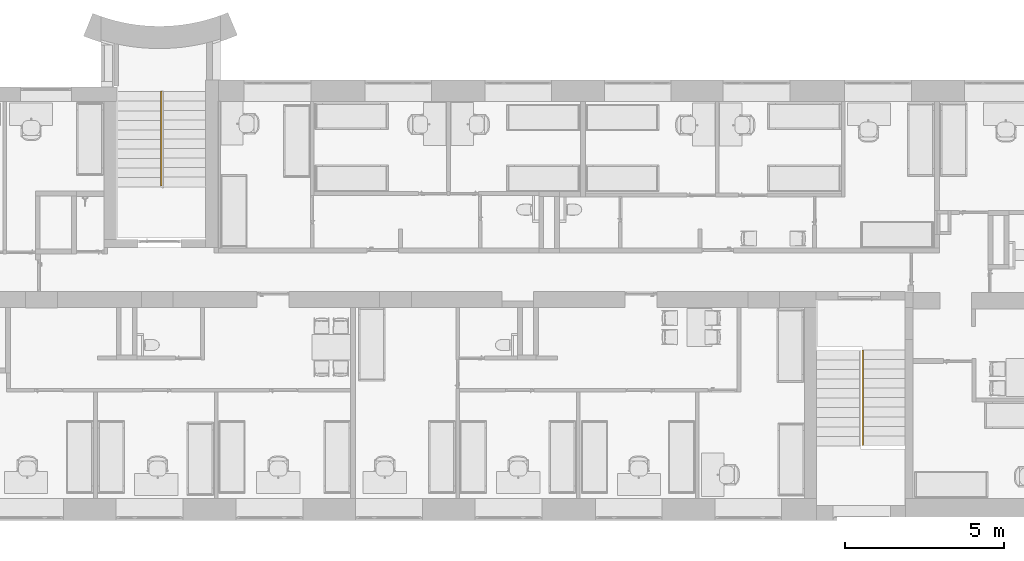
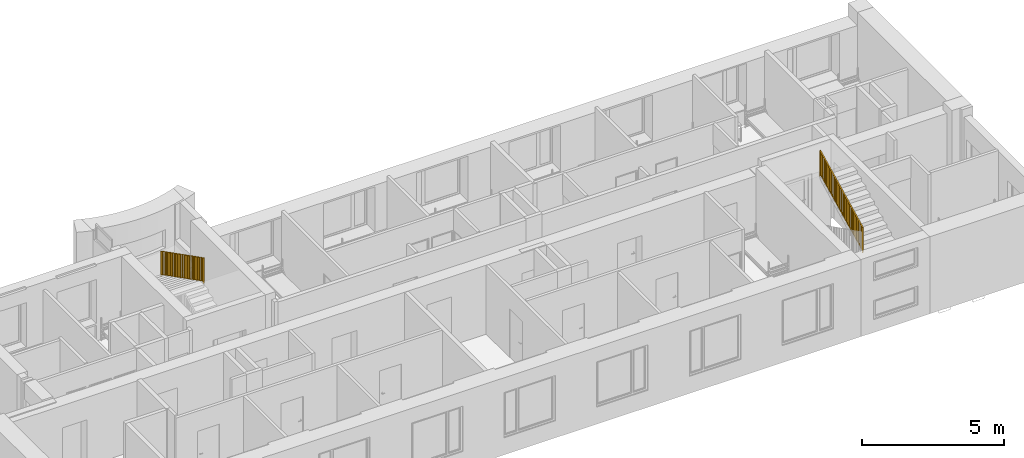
# One storey, part 18 of 48: 2 railings, 2 elements without a shape of their own.
"""IFC2X3 building model written with IfcOpenShell, lengths in millimetres."""

from ifc_helpers import new_model, entity, si_unit, converted_unit, derived_unit, direction, frame, origin, place, context, subcontext, project, spatial, polyline, outline, extrude, material, element, aggregate, save


model = new_model("IFC2X3")

# Units and contexts
model_context = context("Model", 3, precision=0.01, world=origin(), true_north=direction((6.12303176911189e-17, 1.0)))
body_context = subcontext(model_context, "Body", "Model", "MODEL_VIEW")
ifc_project = project(units=[si_unit("LENGTHUNIT", "METRE", prefix="MILLI"), si_unit("AREAUNIT", "SQUARE_METRE"), si_unit("VOLUMEUNIT", "CUBIC_METRE"), converted_unit("PLANEANGLEUNIT", "DEGREE", entity("IfcRatioMeasure", 0.0174532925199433), si_unit("PLANEANGLEUNIT", "RADIAN"), dimensions=[0, 0, 0, 0, 0, 0, 0]), si_unit("MASSUNIT", "GRAM", prefix="KILO"), derived_unit("MASSDENSITYUNIT", [(si_unit("MASSUNIT", "GRAM", prefix="KILO"), 1), (si_unit("LENGTHUNIT", "METRE"), -3)]), si_unit("TIMEUNIT", "SECOND"), si_unit("FREQUENCYUNIT", "HERTZ"), si_unit("THERMODYNAMICTEMPERATUREUNIT", "DEGREE_CELSIUS"), derived_unit("THERMALTRANSMITTANCEUNIT", [(si_unit("MASSUNIT", "GRAM", prefix="KILO"), 1), (si_unit("THERMODYNAMICTEMPERATUREUNIT", "KELVIN"), -1), (si_unit("TIMEUNIT", "SECOND"), -3)]), derived_unit("VOLUMETRICFLOWRATEUNIT", [(si_unit("LENGTHUNIT", "METRE"), 3), (si_unit("TIMEUNIT", "SECOND"), -1)]), si_unit("ELECTRICCURRENTUNIT", "AMPERE"), si_unit("ELECTRICVOLTAGEUNIT", "VOLT"), si_unit("POWERUNIT", "WATT"), si_unit("FORCEUNIT", "NEWTON", prefix="KILO"), si_unit("ILLUMINANCEUNIT", "LUX"), si_unit("LUMINOUSFLUXUNIT", "LUMEN"), si_unit("LUMINOUSINTENSITYUNIT", "CANDELA"), derived_unit("USERDEFINED", [(si_unit("MASSUNIT", "GRAM", prefix="KILO"), -1), (si_unit("LENGTHUNIT", "METRE"), -2), (si_unit("TIMEUNIT", "SECOND"), 3), (si_unit("LUMINOUSFLUXUNIT", "LUMEN"), 1)]), derived_unit("LINEARVELOCITYUNIT", [(si_unit("LENGTHUNIT", "METRE"), 1), (si_unit("TIMEUNIT", "SECOND"), -1)]), si_unit("PRESSUREUNIT", "PASCAL"), derived_unit("USERDEFINED", [(si_unit("LENGTHUNIT", "METRE"), -2), (si_unit("MASSUNIT", "GRAM", prefix="KILO"), 1), (si_unit("TIMEUNIT", "SECOND"), -2)]), derived_unit("LINEARFORCEUNIT", [(si_unit("MASSUNIT", "GRAM", prefix="KILO"), 1), (si_unit("LENGTHUNIT", "METRE"), 1), (si_unit("TIMEUNIT", "SECOND"), -2), (si_unit("LENGTHUNIT", "METRE"), -1)]), derived_unit("PLANARFORCEUNIT", [(si_unit("MASSUNIT", "GRAM", prefix="KILO"), 1), (si_unit("LENGTHUNIT", "METRE"), 1), (si_unit("TIMEUNIT", "SECOND"), -2), (si_unit("LENGTHUNIT", "METRE"), -2)])], contexts=[model_context])

# Site, building, storey
site_placement = place(None, origin())
site = spatial("IfcSite", under=ifc_project, at=site_placement, Name="Default", CompositionType="ELEMENT")
building_placement = place(site_placement, origin())
building = spatial("IfcBuilding", under=site, at=building_placement, Name="SMA ARH", CompositionType="ELEMENT")
storey_placement = place(building_placement, frame((0.0, 0.0, 6600.0)))
storey = spatial("IfcBuildingStorey", under=building, at=storey_placement, Name="3 Korrus", CompositionType="ELEMENT", Elevation=6599.99999999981)

# Stair, railing
stair_1_placement = place(storey_placement, origin())
stair_1 = element("IfcStair", 1, at=stair_1_placement, inside=storey, Name="Cast-In-Place Stair:Stair", ObjectType="Cast-In-Place Stair:Cast-In-Place Stair", ShapeType="STRAIGHT_RUN_STAIR")
ifc_material = material(Name="Metal - Stainless Steel,Polished")
railing_1_placement = place(stair_1_placement, origin())
railing_1 = element("IfcRailing", 2, at=railing_1_placement, material=ifc_material, Name="Railing:1000mm_sisearh railing offsetiga", ObjectType="Railing:1000mm_sisearh railing offsetiga", PredefinedType="NOTDEFINED", context=body_context, shape_type="SweptSolid", body=[
    extrude(outline(polyline([(-221.894317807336, -446.333805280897), (-216.324327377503, -446.333805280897), (221.894317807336, 446.333805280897), (216.324327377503, 446.333805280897), (-221.894317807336, -446.333805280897)])), frame((32255.0, 1770.0, 2297.21500478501), z_axis=(1.0, 0.0, 0.0), x_axis=(0.0, 0.897667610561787, 0.44067319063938)), (0.0, 0.0, 1.0), 49.9999999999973),
    extrude(outline(polyline([(-221.894317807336, -446.333805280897), (-216.324327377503, -446.333805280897), (221.894317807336, 446.333805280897), (216.324327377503, 446.333805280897), (-221.894317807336, -446.333805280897)])), frame((32255.0, 1870.0, 2347.215004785), z_axis=(1.0, 0.0, 0.0), x_axis=(0.0, 0.897667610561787, 0.44067319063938)), (0.0, 0.0, 1.0), 49.9999999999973),
    extrude(outline(polyline([(-221.894317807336, -446.333805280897), (-216.324327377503, -446.333805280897), (221.894317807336, 446.333805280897), (216.324327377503, 446.333805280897), (-221.894317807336, -446.333805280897)])), frame((32255.0, 1970.0, 2397.21500478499), z_axis=(1.0, 0.0, 0.0), x_axis=(0.0, 0.897667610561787, 0.44067319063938)), (0.0, 0.0, 1.0), 49.9999999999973),
    extrude(outline(polyline([(-221.894317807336, -446.333805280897), (-216.324327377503, -446.333805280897), (221.894317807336, 446.333805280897), (216.324327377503, 446.333805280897), (-221.894317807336, -446.333805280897)])), frame((32255.0, 2070.0, 2447.21500478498), z_axis=(1.0, 0.0, 0.0), x_axis=(0.0, 0.897667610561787, 0.44067319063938)), (0.0, 0.0, 1.0), 49.9999999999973),
    extrude(outline(polyline([(-221.894317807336, -446.333805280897), (-216.324327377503, -446.333805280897), (221.894317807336, 446.333805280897), (216.324327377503, 446.333805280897), (-221.894317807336, -446.333805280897)])), frame((32255.0, 2170.0, 2497.21500478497), z_axis=(1.0, 0.0, 0.0), x_axis=(0.0, 0.897667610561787, 0.44067319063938)), (0.0, 0.0, 1.0), 49.9999999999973),
    extrude(outline(polyline([(-221.894317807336, -446.333805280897), (-216.324327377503, -446.333805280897), (221.894317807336, 446.333805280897), (216.324327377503, 446.333805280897), (-221.894317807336, -446.333805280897)])), frame((32255.0, 2270.0, 2547.21500478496), z_axis=(1.0, 0.0, 0.0), x_axis=(0.0, 0.897667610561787, 0.44067319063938)), (0.0, 0.0, 1.0), 49.9999999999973),
    extrude(outline(polyline([(-221.894317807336, -446.333805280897), (-216.324327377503, -446.333805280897), (221.894317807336, 446.333805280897), (216.324327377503, 446.333805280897), (-221.894317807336, -446.333805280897)])), frame((32255.0, 2370.0, 2597.21500478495), z_axis=(1.0, 0.0, 0.0), x_axis=(0.0, 0.897667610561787, 0.44067319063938)), (0.0, 0.0, 1.0), 49.9999999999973),
    extrude(outline(polyline([(-221.894317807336, -446.333805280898), (-216.324327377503, -446.333805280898), (221.894317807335, 446.333805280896), (216.324327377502, 446.333805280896), (-221.894317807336, -446.333805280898)])), frame((32255.0, 2470.0, 2647.21500478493), z_axis=(1.0, 0.0, 0.0), x_axis=(0.0, 0.897667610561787, 0.44067319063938)), (0.0, 0.0, 1.0), 49.9999999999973),
    extrude(outline(polyline([(-221.894317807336, -446.333805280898), (-216.324327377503, -446.333805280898), (221.894317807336, 446.333805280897), (216.324327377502, 446.333805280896), (-221.894317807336, -446.333805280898)])), frame((32255.0, 2570.0, 2697.21500478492), z_axis=(1.0, 0.0, 0.0), x_axis=(0.0, 0.897667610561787, 0.44067319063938)), (0.0, 0.0, 1.0), 49.9999999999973),
    extrude(outline(polyline([(-221.894317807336, -446.333805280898), (-216.324327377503, -446.333805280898), (221.894317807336, 446.333805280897), (216.324327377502, 446.333805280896), (-221.894317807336, -446.333805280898)])), frame((32255.0, 2670.0, 2747.21500478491), z_axis=(1.0, 0.0, 0.0), x_axis=(0.0, 0.897667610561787, 0.44067319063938)), (0.0, 0.0, 1.0), 49.9999999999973),
    extrude(outline(polyline([(-221.894317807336, -446.333805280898), (-216.324327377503, -446.333805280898), (221.894317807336, 446.333805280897), (216.324327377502, 446.333805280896), (-221.894317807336, -446.333805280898)])), frame((32255.0, 2770.0, 2797.2150047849), z_axis=(1.0, 0.0, 0.0), x_axis=(0.0, 0.897667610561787, 0.44067319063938)), (0.0, 0.0, 1.0), 49.9999999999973),
    extrude(outline(polyline([(-221.894317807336, -446.333805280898), (-216.324327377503, -446.333805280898), (221.894317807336, 446.333805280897), (216.324327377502, 446.333805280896), (-221.894317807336, -446.333805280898)])), frame((32255.0, 2870.0, 2847.21500478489), z_axis=(1.0, 0.0, 0.0), x_axis=(0.0, 0.897667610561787, 0.44067319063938)), (0.0, 0.0, 1.0), 49.9999999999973),
    extrude(outline(polyline([(-221.894317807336, -446.333805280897), (-216.324327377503, -446.333805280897), (221.894317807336, 446.333805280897), (216.324327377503, 446.333805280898), (-221.894317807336, -446.333805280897)])), frame((32255.0, 2970.0, 2897.21500478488), z_axis=(1.0, 0.0, 0.0), x_axis=(0.0, 0.897667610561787, 0.44067319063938)), (0.0, 0.0, 1.0), 49.9999999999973),
    extrude(outline(polyline([(-221.894317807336, -446.333805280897), (-216.324327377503, -446.333805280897), (221.894317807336, 446.333805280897), (216.324327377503, 446.333805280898), (-221.894317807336, -446.333805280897)])), frame((32255.0, 3070.0, 2947.21500478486), z_axis=(1.0, 0.0, 0.0), x_axis=(0.0, 0.897667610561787, 0.44067319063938)), (0.0, 0.0, 1.0), 49.9999999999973),
    extrude(outline(polyline([(-221.894317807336, -446.333805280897), (-216.324327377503, -446.333805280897), (221.894317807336, 446.333805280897), (216.324327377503, 446.333805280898), (-221.894317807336, -446.333805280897)])), frame((32255.0, 3170.0, 2997.21500478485), z_axis=(1.0, 0.0, 0.0), x_axis=(0.0, 0.897667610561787, 0.44067319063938)), (0.0, 0.0, 1.0), 49.9999999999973),
    extrude(outline(polyline([(-221.894317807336, -446.333805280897), (-216.324327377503, -446.333805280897), (221.894317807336, 446.333805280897), (216.324327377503, 446.333805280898), (-221.894317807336, -446.333805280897)])), frame((32255.0, 3270.0, 3047.21500478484), z_axis=(1.0, 0.0, 0.0), x_axis=(0.0, 0.897667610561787, 0.44067319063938)), (0.0, 0.0, 1.0), 49.9999999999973),
    extrude(outline(polyline([(-221.894317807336, -446.333805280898), (-216.324327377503, -446.333805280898), (221.894317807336, 446.333805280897), (216.324327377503, 446.333805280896), (-221.894317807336, -446.333805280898)])), frame((32255.0, 3370.0, 3097.21500478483), z_axis=(1.0, 0.0, 0.0), x_axis=(0.0, 0.897667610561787, 0.44067319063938)), (0.0, 0.0, 1.0), 49.9999999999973),
    extrude(outline(polyline([(-221.894317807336, -446.333805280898), (-216.324327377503, -446.333805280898), (221.894317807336, 446.333805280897), (216.324327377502, 446.333805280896), (-221.894317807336, -446.333805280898)])), frame((32255.0, 3470.0, 3147.21500478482), z_axis=(1.0, 0.0, 0.0), x_axis=(0.0, 0.897667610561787, 0.44067319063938)), (0.0, 0.0, 1.0), 49.9999999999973),
    extrude(outline(polyline([(-221.894317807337, -446.333805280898), (-216.324327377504, -446.333805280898), (221.894317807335, 446.333805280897), (216.324327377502, 446.333805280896), (-221.894317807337, -446.333805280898)])), frame((32255.0, 3570.0, 3197.21500478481), z_axis=(1.0, 0.0, 0.0), x_axis=(0.0, 0.897667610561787, 0.44067319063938)), (0.0, 0.0, 1.0), 49.9999999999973),
    extrude(outline(polyline([(-221.894317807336, -446.333805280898), (-216.324327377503, -446.333805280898), (221.894317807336, 446.333805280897), (216.324327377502, 446.333805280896), (-221.894317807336, -446.333805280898)])), frame((32255.0, 3670.0, 3247.2150047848), z_axis=(1.0, 0.0, 0.0), x_axis=(0.0, 0.897667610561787, 0.44067319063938)), (0.0, 0.0, 1.0), 49.9999999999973),
    extrude(outline(polyline([(-221.894317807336, -446.333805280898), (-216.324327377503, -446.333805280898), (221.894317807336, 446.333805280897), (216.324327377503, 446.333805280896), (-221.894317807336, -446.333805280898)])), frame((32255.0, 3770.0, 3297.21500478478), z_axis=(1.0, 0.0, 0.0), x_axis=(0.0, 0.897667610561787, 0.44067319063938)), (0.0, 0.0, 1.0), 49.9999999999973),
    extrude(outline(polyline([(-221.894317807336, -446.333805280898), (-216.324327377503, -446.333805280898), (221.894317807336, 446.333805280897), (216.324327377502, 446.333805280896), (-221.894317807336, -446.333805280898)])), frame((32255.0, 3870.0, 3347.21500478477), z_axis=(1.0, 0.0, 0.0), x_axis=(0.0, 0.897667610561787, 0.44067319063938)), (0.0, 0.0, 1.0), 49.9999999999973),
    extrude(outline(polyline([(-221.894317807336, -446.333805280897), (-216.324327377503, -446.333805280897), (221.894317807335, 446.333805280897), (216.324327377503, 446.333805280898), (-221.894317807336, -446.333805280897)])), frame((32255.0, 3970.0, 3397.21500478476), z_axis=(1.0, 0.0, 0.0), x_axis=(0.0, 0.897667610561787, 0.44067319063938)), (0.0, 0.0, 1.0), 49.9999999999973),
    extrude(outline(polyline([(-221.894317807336, -446.333805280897), (-216.324327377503, -446.333805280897), (221.894317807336, 446.333805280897), (216.324327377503, 446.333805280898), (-221.894317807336, -446.333805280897)])), frame((32255.0, 4070.0, 3447.21500478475), z_axis=(1.0, 0.0, 0.0), x_axis=(0.0, 0.897667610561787, 0.44067319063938)), (0.0, 0.0, 1.0), 49.9999999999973),
    extrude(outline(polyline([(-221.894317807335, -446.333805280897), (-216.324327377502, -446.333805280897), (221.894317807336, 446.333805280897), (216.324327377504, 446.333805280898), (-221.894317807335, -446.333805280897)])), frame((32255.0, 4170.0, 3497.21500478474), z_axis=(1.0, 0.0, 0.0), x_axis=(0.0, 0.897667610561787, 0.44067319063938)), (0.0, 0.0, 1.0), 49.9999999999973),
    extrude(outline(polyline([(-221.894317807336, -446.333805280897), (-216.324327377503, -446.333805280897), (221.894317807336, 446.333805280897), (216.324327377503, 446.333805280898), (-221.894317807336, -446.333805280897)])), frame((32255.0, 4270.0, 3547.21500478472), z_axis=(1.0, 0.0, 0.0), x_axis=(0.0, 0.897667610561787, 0.44067319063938)), (0.0, 0.0, 1.0), 49.9999999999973),
    extrude(outline(polyline([(-221.894317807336, -446.333805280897), (-216.324327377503, -446.333805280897), (221.894317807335, 446.333805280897), (216.324327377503, 446.333805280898), (-221.894317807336, -446.333805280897)])), frame((32255.0, 4370.0, 3597.21500478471), z_axis=(1.0, 0.0, 0.0), x_axis=(0.0, 0.897667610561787, 0.44067319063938)), (0.0, 0.0, 1.0), 49.9999999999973),
    extrude(outline(polyline([(-221.894317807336, -446.333805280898), (-216.324327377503, -446.333805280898), (221.894317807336, 446.333805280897), (216.324327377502, 446.333805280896), (-221.894317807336, -446.333805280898)])), frame((32255.0, 4470.0, 3647.2150047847), z_axis=(1.0, 0.0, 0.0), x_axis=(0.0, 0.897667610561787, 0.44067319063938)), (0.0, 0.0, 1.0), 49.9999999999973),
    extrude(outline(polyline([(-221.894317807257, -446.333805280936), (-216.324327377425, -446.333805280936), (221.894317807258, 446.333805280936), (216.324327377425, 446.333805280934), (-221.894317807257, -446.333805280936)])), frame((32255.0, 4570.0, 3697.21500478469), z_axis=(1.0, 0.0, 0.0), x_axis=(0.0, 0.897667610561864, 0.440673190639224)), (0.0, 0.0, 1.0), 49.9999999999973),
    extrude(outline(polyline([(-243.927977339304, -491.217185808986), (-238.357986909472, -491.217185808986), (243.927977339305, 491.217185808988), (238.357986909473, 491.217185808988), (-243.927977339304, -491.217185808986)])), frame((32255.0, 1680.0, 2202.21500478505), z_axis=(1.0, 0.0, 0.0), x_axis=(0.0, 0.897667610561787, 0.44067319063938)), (0.0, 0.0, 1.0), 49.9999999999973),
    extrude(outline(polyline([(-243.927977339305, -491.217185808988), (-238.357986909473, -491.217185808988), (243.927977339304, 491.217185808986), (238.357986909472, 491.217185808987), (-243.927977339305, -491.217185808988)])), frame((32255.0, 4660.0, 3692.21500478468), z_axis=(1.0, 0.0, 0.0), x_axis=(0.0, 0.897667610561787, 0.44067319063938)), (0.0, 0.0, 1.0), 49.9999999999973),
    extrude(outline(polyline([(-1678.30098312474, -2.50000000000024), (1675.80098312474, -2.50000000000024), (1678.30098312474, 2.50000000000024), (-1675.80098312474, 2.50000000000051), (-1678.30098312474, -2.50000000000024)])), frame((32254.5598309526, 3170.0, 2497.2049150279), z_axis=(1.0, 0.0, 0.0), x_axis=(0.0, -0.894427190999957, -0.447213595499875)), (0.0, 0.0, 1.0), 49.9999999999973),
    extrude(outline(polyline([(-1678.30098312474, -2.49999999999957), (1675.80098312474, -2.49999999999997), (1678.30098312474, 2.50000000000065), (-1675.80098312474, 2.50000000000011), (-1678.30098312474, -2.49999999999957)])), frame((32254.5598309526, 3170.0, 3497.2049150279), z_axis=(1.0, 0.0, 0.0), x_axis=(0.0, 0.894427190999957, 0.447213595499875)), (0.0, 0.0, 1.0), 50.0000000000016),
])
aggregate(stair_1, [railing_1])

stair_2_placement = place(storey_placement, origin())
stair_2 = element("IfcStair", 3, at=stair_2_placement, inside=storey, Name="Cast-In-Place Stair:Stair", ObjectType="Cast-In-Place Stair:Cast-In-Place Stair", ShapeType="STRAIGHT_RUN_STAIR")
railing_2_placement = place(stair_2_placement, origin())
railing_2 = element("IfcRailing", 4, at=railing_2_placement, material=ifc_material, Name="Railing:1000mm_sisearh railing offsetiga", ObjectType="Railing:1000mm_sisearh railing offsetiga", PredefinedType="NOTDEFINED", context=body_context, shape_type="SweptSolid", body=[
    extrude(outline(polyline([(-498.467404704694, -2.49999999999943), (495.921950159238, -2.49999999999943), (498.467404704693, 2.5000000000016), (-495.921950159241, 2.5000000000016), (-498.467404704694, -2.49999999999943)])), frame((10180.0, 12728.3043712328, 2247.84991159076), z_axis=(1.0, 0.0, 0.0), x_axis=(0.0, 0.0, 1.0)), (0.0, 0.0, 1.0), 50.0000000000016),
    extrude(outline(polyline([(-498.467404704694, -2.5000000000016), (495.921950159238, -2.5000000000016), (498.467404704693, 2.49999999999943), (-495.921950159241, 2.49999999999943), (-498.467404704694, -2.5000000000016)])), frame((10180.0, 12628.3043712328, 2298.75900249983), z_axis=(1.0, 0.0, 0.0), x_axis=(0.0, 0.0, 1.0)), (0.0, 0.0, 1.0), 50.0000000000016),
    extrude(outline(polyline([(-498.467404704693, -2.49999999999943), (495.92195015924, -2.49999999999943), (498.467404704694, 2.5000000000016), (-495.92195015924, 2.5000000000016), (-498.467404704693, -2.49999999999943)])), frame((10180.0, 12528.3043712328, 2349.66809340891), z_axis=(1.0, 0.0, 0.0), x_axis=(0.0, 0.0, 1.0)), (0.0, 0.0, 1.0), 50.0000000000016),
    extrude(outline(polyline([(-498.467404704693, -2.5000000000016), (495.92195015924, -2.5000000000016), (498.467404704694, 2.49999999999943), (-495.92195015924, 2.49999999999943), (-498.467404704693, -2.5000000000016)])), frame((10180.0, 12428.3043712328, 2400.57718431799), z_axis=(1.0, 0.0, 0.0), x_axis=(0.0, 0.0, 1.0)), (0.0, 0.0, 1.0), 50.0000000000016),
    extrude(outline(polyline([(-498.467404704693, -2.5000000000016), (495.92195015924, -2.5000000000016), (498.467404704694, 2.49999999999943), (-495.92195015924, 2.49999999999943), (-498.467404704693, -2.5000000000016)])), frame((10180.0, 12328.3043712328, 2451.48627522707), z_axis=(1.0, 0.0, 0.0), x_axis=(0.0, 0.0, 1.0)), (0.0, 0.0, 1.0), 50.0000000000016),
    extrude(outline(polyline([(-498.467404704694, -2.49999999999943), (495.921950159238, -2.49999999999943), (498.467404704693, 2.5000000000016), (-495.921950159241, 2.5000000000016), (-498.467404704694, -2.49999999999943)])), frame((10180.0, 12228.3043712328, 2502.39536613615), z_axis=(1.0, 0.0, 0.0), x_axis=(0.0, 0.0, 1.0)), (0.0, 0.0, 1.0), 50.0000000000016),
    extrude(outline(polyline([(-498.467404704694, -2.5000000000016), (495.921950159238, -2.5000000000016), (498.467404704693, 2.49999999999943), (-495.921950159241, 2.49999999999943), (-498.467404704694, -2.5000000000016)])), frame((10180.0, 12128.3043712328, 2553.30445704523), z_axis=(1.0, 0.0, 0.0), x_axis=(0.0, 0.0, 1.0)), (0.0, 0.0, 1.0), 50.0000000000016),
    extrude(outline(polyline([(-498.467404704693, -2.5000000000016), (495.92195015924, -2.5000000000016), (498.467404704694, 2.49999999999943), (-495.92195015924, 2.49999999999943), (-498.467404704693, -2.5000000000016)])), frame((10180.0, 12028.3043712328, 2604.21354795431), z_axis=(1.0, 0.0, 0.0), x_axis=(0.0, 0.0, 1.0)), (0.0, 0.0, 1.0), 50.0000000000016),
    extrude(outline(polyline([(-498.467404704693, -2.5000000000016), (495.92195015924, -2.5000000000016), (498.467404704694, 2.49999999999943), (-495.92195015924, 2.49999999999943), (-498.467404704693, -2.5000000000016)])), frame((10180.0, 11928.3043712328, 2655.12263886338), z_axis=(1.0, 0.0, 0.0), x_axis=(0.0, 0.0, 1.0)), (0.0, 0.0, 1.0), 50.0000000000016),
    extrude(outline(polyline([(-498.467404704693, -2.5000000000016), (495.92195015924, -2.5000000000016), (498.467404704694, 2.49999999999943), (-495.92195015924, 2.49999999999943), (-498.467404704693, -2.5000000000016)])), frame((10180.0, 11828.3043712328, 2706.03172977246), z_axis=(1.0, 0.0, 0.0), x_axis=(0.0, 0.0, 1.0)), (0.0, 0.0, 1.0), 50.0000000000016),
    extrude(outline(polyline([(-498.467404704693, -2.49999999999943), (495.92195015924, -2.49999999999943), (498.467404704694, 2.5000000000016), (-495.92195015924, 2.5000000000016), (-498.467404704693, -2.49999999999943)])), frame((10180.0, 11728.3043712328, 2756.94082068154), z_axis=(1.0, 0.0, 0.0), x_axis=(0.0, 0.0, 1.0)), (0.0, 0.0, 1.0), 50.0000000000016),
    extrude(outline(polyline([(-498.467404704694, -2.5000000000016), (495.92195015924, -2.5000000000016), (498.467404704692, 2.49999999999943), (-495.921950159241, 2.49999999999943), (-498.467404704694, -2.5000000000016)])), frame((10180.0, 11628.3043712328, 2807.84991159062), z_axis=(1.0, 0.0, 0.0), x_axis=(0.0, 0.0, 1.0)), (0.0, 0.0, 1.0), 50.0000000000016),
    extrude(outline(polyline([(-498.467404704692, -2.5000000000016), (495.92195015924, -2.5000000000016), (498.467404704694, 2.49999999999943), (-495.921950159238, 2.49999999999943), (-498.467404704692, -2.5000000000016)])), frame((10180.0, 11528.3043712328, 2858.7590024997), z_axis=(1.0, 0.0, 0.0), x_axis=(0.0, 0.0, 1.0)), (0.0, 0.0, 1.0), 50.0000000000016),
    extrude(outline(polyline([(-498.467404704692, -2.49999999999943), (495.92195015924, -2.49999999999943), (498.467404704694, 2.5000000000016), (-495.921950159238, 2.5000000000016), (-498.467404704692, -2.49999999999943)])), frame((10180.0, 11428.3043712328, 2909.66809340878), z_axis=(1.0, 0.0, 0.0), x_axis=(0.0, 0.0, 1.0)), (0.0, 0.0, 1.0), 50.0000000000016),
    extrude(outline(polyline([(-498.467404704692, -2.5000000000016), (495.92195015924, -2.5000000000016), (498.467404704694, 2.49999999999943), (-495.921950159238, 2.49999999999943), (-498.467404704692, -2.5000000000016)])), frame((10180.0, 11328.3043712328, 2960.57718431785), z_axis=(1.0, 0.0, 0.0), x_axis=(0.0, 0.0, 1.0)), (0.0, 0.0, 1.0), 50.0000000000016),
    extrude(outline(polyline([(-498.467404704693, -2.5000000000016), (495.92195015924, -2.5000000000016), (498.467404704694, 2.49999999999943), (-495.92195015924, 2.49999999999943), (-498.467404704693, -2.5000000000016)])), frame((10180.0, 11228.3043712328, 3011.48627522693), z_axis=(1.0, 0.0, 0.0), x_axis=(0.0, 0.0, 1.0)), (0.0, 0.0, 1.0), 50.0000000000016),
    extrude(outline(polyline([(-498.467404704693, -2.49999999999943), (495.921950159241, -2.49999999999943), (498.467404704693, 2.5000000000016), (-495.92195015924, 2.5000000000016), (-498.467404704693, -2.49999999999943)])), frame((10180.0, 11128.3043712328, 3062.39536613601), z_axis=(1.0, 0.0, 0.0), x_axis=(0.0, 0.0, 1.0)), (0.0, 0.0, 1.0), 50.0000000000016),
    extrude(outline(polyline([(-498.467404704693, -2.5000000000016), (495.92195015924, -2.5000000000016), (498.467404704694, 2.49999999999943), (-495.92195015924, 2.49999999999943), (-498.467404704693, -2.5000000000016)])), frame((10180.0, 11028.3043712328, 3113.30445704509), z_axis=(1.0, 0.0, 0.0), x_axis=(0.0, 0.0, 1.0)), (0.0, 0.0, 1.0), 50.0000000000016),
    extrude(outline(polyline([(-498.467404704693, -2.49999999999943), (495.92195015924, -2.49999999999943), (498.467404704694, 2.5000000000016), (-495.92195015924, 2.5000000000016), (-498.467404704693, -2.49999999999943)])), frame((10180.0, 10928.3043712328, 3164.21354795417), z_axis=(1.0, 0.0, 0.0), x_axis=(0.0, 0.0, 1.0)), (0.0, 0.0, 1.0), 50.0000000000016),
    extrude(outline(polyline([(-498.467404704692, -2.5000000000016), (495.92195015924, -2.5000000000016), (498.467404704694, 2.49999999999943), (-495.921950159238, 2.49999999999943), (-498.467404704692, -2.5000000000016)])), frame((10180.0, 10828.3043712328, 3215.12263886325), z_axis=(1.0, 0.0, 0.0), x_axis=(0.0, 0.0, 1.0)), (0.0, 0.0, 1.0), 50.0000000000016),
    extrude(outline(polyline([(-498.467404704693, -2.5000000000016), (495.92195015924, -2.5000000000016), (498.467404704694, 2.49999999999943), (-495.92195015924, 2.49999999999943), (-498.467404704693, -2.5000000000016)])), frame((10180.0, 10728.3043712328, 3266.03172977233), z_axis=(1.0, 0.0, 0.0), x_axis=(0.0, 0.0, 1.0)), (0.0, 0.0, 1.0), 50.0000000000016),
    extrude(outline(polyline([(-498.467404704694, -2.49999999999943), (495.92195015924, -2.49999999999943), (498.467404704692, 2.5000000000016), (-495.921950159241, 2.5000000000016), (-498.467404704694, -2.49999999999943)])), frame((10180.0, 10628.3043712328, 3316.94082068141), z_axis=(1.0, 0.0, 0.0), x_axis=(0.0, 0.0, 1.0)), (0.0, 0.0, 1.0), 50.0000000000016),
    extrude(outline(polyline([(-498.467404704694, -2.5000000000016), (495.92195015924, -2.5000000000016), (498.467404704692, 2.49999999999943), (-495.921950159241, 2.49999999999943), (-498.467404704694, -2.5000000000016)])), frame((10180.0, 10528.3043712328, 3367.84991159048), z_axis=(1.0, 0.0, 0.0), x_axis=(0.0, 0.0, 1.0)), (0.0, 0.0, 1.0), 50.0000000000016),
    extrude(outline(polyline([(-498.467404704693, -2.5000000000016), (495.92195015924, -2.5000000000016), (498.467404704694, 2.49999999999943), (-495.92195015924, 2.49999999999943), (-498.467404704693, -2.5000000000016)])), frame((10180.0, 10428.3043712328, 3418.75900249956), z_axis=(1.0, 0.0, 0.0), x_axis=(0.0, 0.0, 1.0)), (0.0, 0.0, 1.0), 50.0000000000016),
    extrude(outline(polyline([(-498.467404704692, -2.5000000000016), (495.92195015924, -2.5000000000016), (498.467404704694, 2.49999999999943), (-495.921950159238, 2.49999999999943), (-498.467404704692, -2.5000000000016)])), frame((10180.0, 10328.3043712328, 3469.66809340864), z_axis=(1.0, 0.0, 0.0), x_axis=(0.0, 0.0, 1.0)), (0.0, 0.0, 1.0), 50.0000000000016),
    extrude(outline(polyline([(-498.467404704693, -2.5000000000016), (495.92195015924, -2.5000000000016), (498.467404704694, 2.49999999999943), (-495.92195015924, 2.49999999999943), (-498.467404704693, -2.5000000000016)])), frame((10180.0, 10228.3043712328, 3520.57718431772), z_axis=(1.0, 0.0, 0.0), x_axis=(0.0, 0.0, 1.0)), (0.0, 0.0, 1.0), 50.0000000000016),
    extrude(outline(polyline([(-498.467404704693, -2.49999999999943), (495.92195015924, -2.49999999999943), (498.467404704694, 2.5000000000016), (-495.92195015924, 2.5000000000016), (-498.467404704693, -2.49999999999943)])), frame((10180.0, 10128.3043712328, 3571.4862752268), z_axis=(1.0, 0.0, 0.0), x_axis=(0.0, 0.0, 1.0)), (0.0, 0.0, 1.0), 50.0000000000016),
    extrude(outline(polyline([(-498.467404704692, -2.5000000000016), (495.921950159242, -2.5000000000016), (498.467404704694, 2.49999999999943), (-495.921950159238, 2.49999999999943), (-498.467404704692, -2.5000000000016)])), frame((10180.0, 10028.3043712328, 3622.39536613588), z_axis=(1.0, 0.0, 0.0), x_axis=(0.0, 0.0, 1.0)), (0.0, 0.0, 1.0), 50.0000000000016),
    extrude(outline(polyline([(-498.467404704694, -2.5000000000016), (495.92195015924, -2.5000000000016), (498.467404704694, 2.49999999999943), (-495.92195015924, 2.49999999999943), (-498.467404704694, -2.5000000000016)])), frame((10180.0, 9928.30437123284, 3673.30445704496), z_axis=(1.0, 0.0, 0.0), x_axis=(0.0, 0.0, 1.0)), (0.0, 0.0, 1.0), 50.0000000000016),
    extrude(outline(polyline([(-548.467404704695, -2.5000000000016), (545.921950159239, -2.5000000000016), (548.467404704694, 2.49999999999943), (-545.921950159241, 2.49999999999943), (-548.467404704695, -2.5000000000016)])), frame((10180.0, 12818.3043712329, 2152.03172977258), z_axis=(1.0, 0.0, 0.0), x_axis=(0.0, 0.0, 1.0)), (0.0, 0.0, 1.0), 50.0000000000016),
    extrude(outline(polyline([(-548.467404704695, -2.5000000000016), (545.921950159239, -2.5000000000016), (548.467404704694, 2.49999999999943), (-545.921950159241, 2.49999999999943), (-548.467404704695, -2.5000000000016)])), frame((10180.0, 9838.30437123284, 3669.12263886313), z_axis=(1.0, 0.0, 0.0), x_axis=(0.0, 0.0, 1.0)), (0.0, 0.0, 1.0), 50.0000000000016),
    extrude(outline(polyline([(-1681.92081355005, -2.49999999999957), (1684.4662680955, -2.49999999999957), (1681.92081355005, 2.49999999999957), (-1684.4662680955, 2.49999999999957), (-1681.92081355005, -2.49999999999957)])), frame((10180.4401690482, 11328.3043712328, 2460.57718431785), z_axis=(1.0, 0.0, 0.0), x_axis=(0.0, 0.891163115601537, -0.453683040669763)), (0.0, 0.0, 1.0), 49.9999999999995),
    extrude(outline(polyline([(-1681.92081355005, -2.50000000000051), (1684.4662680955, -2.50000000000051), (1681.92081355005, 2.49999999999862), (-1684.4662680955, 2.49999999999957), (-1681.92081355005, -2.50000000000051)])), frame((10180.4401690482, 11328.3043712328, 3460.57718431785), z_axis=(1.0, 0.0, 0.0), x_axis=(0.0, -0.891163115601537, 0.453683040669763)), (0.0, 0.0, 1.0), 49.9999999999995),
])
aggregate(stair_2, [railing_2])

save(model, "model.ifc")
